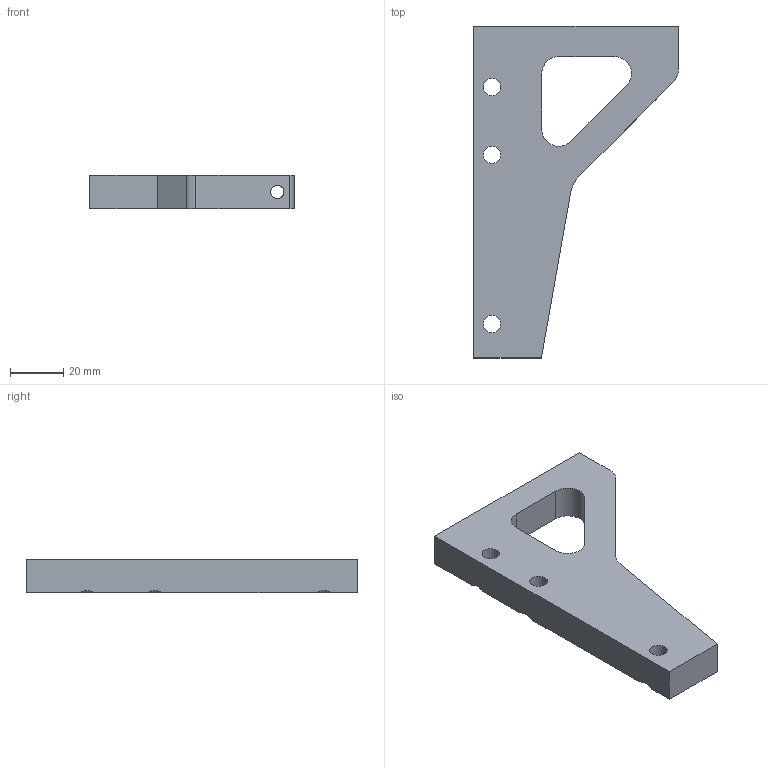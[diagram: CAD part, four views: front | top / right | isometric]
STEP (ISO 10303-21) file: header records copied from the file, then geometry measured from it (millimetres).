
FILE_DESCRIPTION(/* description */ ('Alibre Inc.'),/* implementation_level */ '2;1');
FILE_NAME(/* name */ 'export0',/* time_stamp */ '2014-02-03T00:56:38-05:00',/* author */ (''),/* organization */ (''),/* preprocessor_version */ 'ST-DEVELOPER v14',/* originating_system */ 'Alibre',/* authorisation */ '');
FILE_SCHEMA (('AUTOMOTIVE_DESIGN'));
Length unit declared in the file: centimetre
Bounding box: 76.71 x 124.46 x 12.7 mm (x, y, z)
Volume: 60362.3 mm3; surface area: 16865.3 mm2
Topology: 1 solids, 1 shells, 23 faces, 73 edges, 49 vertices
Faces by surface type: plane 11, cylinder 9, cone 3
Full cylindrical faces by diameter (mm): 4.978 x1, 6.528 x3
Entity records: 727 total; most frequent: CARTESIAN_POINT 127, ORIENTED_EDGE 118, DIRECTION 109, EDGE_CURVE 59, AXIS2_PLACEMENT_3D 44, VERTEX_POINT 42, EDGE_LOOP 37, FACE_BOUND 37
